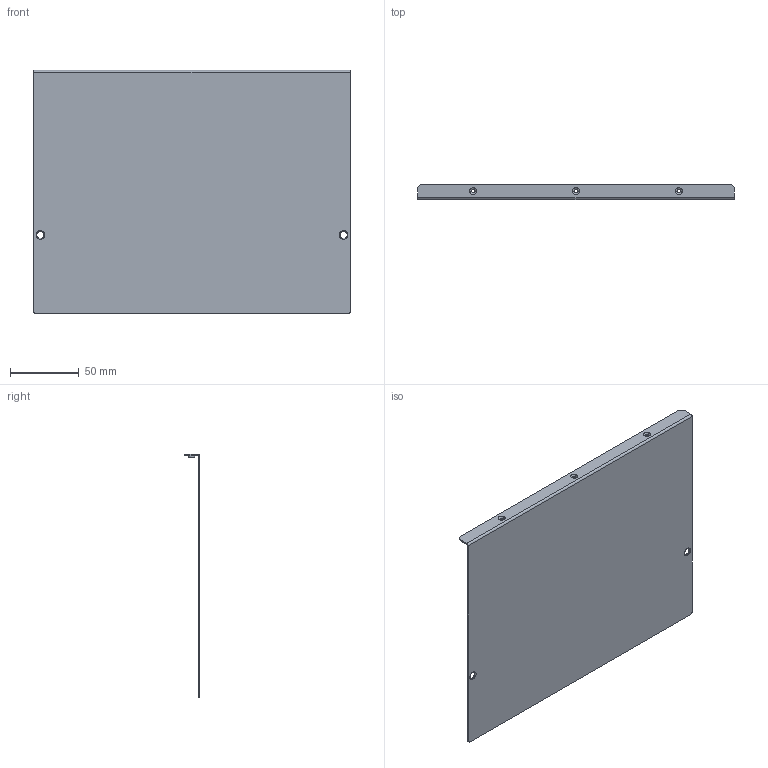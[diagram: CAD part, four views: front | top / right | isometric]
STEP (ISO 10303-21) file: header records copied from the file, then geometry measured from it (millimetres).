
FILE_DESCRIPTION((''),'2;1');
FILE_NAME('OCP3-FIX-CVR-FRONT-DSFF','2025-03-17T16:10:26',('T_Dawson'),('Dell Technologies'),'CREO PARAMETRIC BY PTC INC, 2023294','CREO PARAMETRIC BY PTC INC, 2023294','');
FILE_SCHEMA(('AUTOMOTIVE_DESIGN { 1 0 10303 214 1 1 1 1 }'));
Length unit declared in the file: millimetre
Products named in the file (1): OCP3-FIX-CVR-FRONT-DSFF
Bounding box: 231.2 x 11 x 177.5 mm (x, y, z)
Volume: 43225.4 mm3; surface area: 87345.7 mm2
Topology: 1 solids, 1 shells, 56 faces, 133 edges, 93 vertices
Faces by surface type: cylinder 22, plane 18, torus 12, cone 4
Entity records: 3002 total; most frequent: DIRECTION 448, CARTESIAN_POINT 356, ORIENTED_EDGE 252, AXIS2_PLACEMENT_3D 181, PRESENTATION_STYLE_ASSIGNMENT 135, STYLED_ITEM 135, CURVE_STYLE 134, EDGE_CURVE 126
